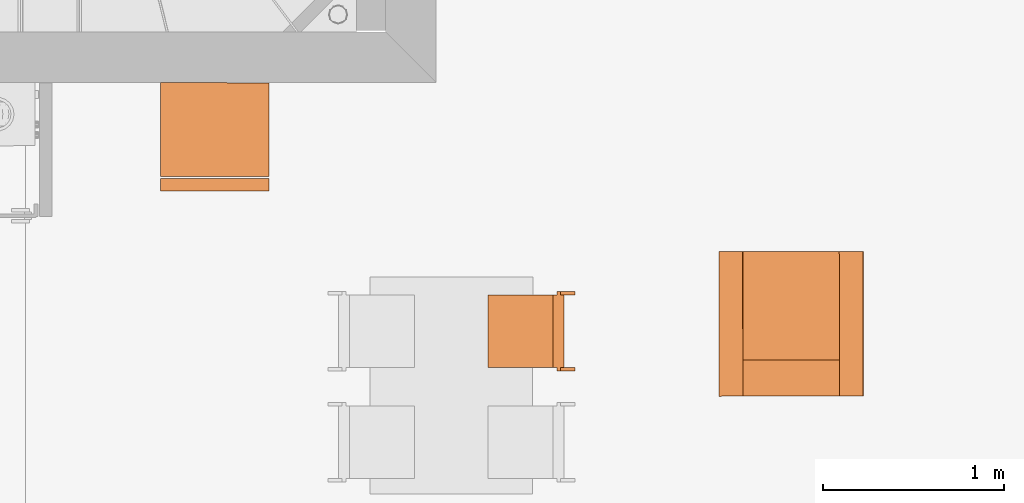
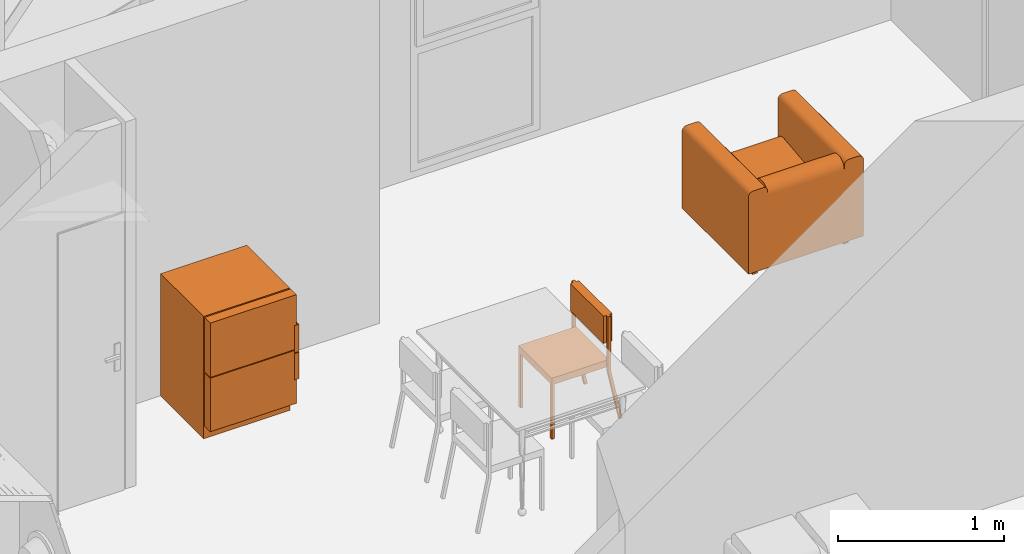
# One storey, part 147 of 164: 3 proxies.
"""IFC2X3 building model written with IfcOpenShell, lengths in millimetres."""

from ifc_helpers import new_model, entity, si_unit, converted_unit, derived_unit, money_unit, direction, frame, origin_with_axes, place, context, subcontext, project, spatial, open_shell, faceted_brep, surface_model, source, transform, mapped, type_object, element, save


model = new_model("IFC2X3")

# Units and contexts
model_context = context("Model", 3, precision=0.01, world=origin_with_axes(), true_north=direction((0.0, 1.0)))
body_context = subcontext(model_context, "Body", "Model", "MODEL_VIEW")
ifc_project = project(units=[si_unit("LENGTHUNIT", "METRE", prefix="MILLI"), si_unit("AREAUNIT", "SQUARE_METRE"), si_unit("VOLUMEUNIT", "CUBIC_METRE"), converted_unit("PLANEANGLEUNIT", "DEGREE", entity("IfcPlaneAngleMeasure", 0.0174532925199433), si_unit("PLANEANGLEUNIT", "RADIAN"), dimensions=[0, 0, 0, 0, 0, 0, 0]), money_unit("USD"), converted_unit("TIMEUNIT", "Year", entity("IfcTimeMeasure", 31557600.0), si_unit("TIMEUNIT", "SECOND"), dimensions=[0, 0, 1, 0, 0, 0, 0]), si_unit("MASSUNIT", "GRAM", prefix="KILO"), si_unit("THERMODYNAMICTEMPERATUREUNIT", "DEGREE_CELSIUS"), si_unit("LUMINOUSINTENSITYUNIT", "LUMEN"), si_unit("ENERGYUNIT", "JOULE", prefix="MEGA"), derived_unit("THERMALCONDUCTANCEUNIT", [(si_unit("POWERUNIT", "WATT"), 1), (si_unit("LENGTHUNIT", "METRE"), -1), (si_unit("THERMODYNAMICTEMPERATUREUNIT", "KELVIN"), -1)]), derived_unit("SPECIFICHEATCAPACITYUNIT", [(si_unit("ENERGYUNIT", "JOULE"), 1), (si_unit("MASSUNIT", "GRAM", prefix="KILO"), -1), (si_unit("THERMODYNAMICTEMPERATUREUNIT", "KELVIN"), -1)]), derived_unit("MASSDENSITYUNIT", [(si_unit("MASSUNIT", "GRAM", prefix="KILO"), 1), (si_unit("VOLUMEUNIT", "CUBIC_METRE"), -1)])], contexts=[model_context])

# Site, building, storey
site_placement = place(None, origin_with_axes())
site = spatial("IfcSite", under=ifc_project, at=site_placement, Name="Site", CompositionType="ELEMENT")
building_placement = place(site_placement, origin_with_axes())
building = spatial("IfcBuilding", under=site, at=building_placement, Name="Bâtiment", CompositionType="ELEMENT")
storey_placement = place(building_placement, frame((0.0, 0.0, 5750.0), z_axis=(0.0, 0.0, 1.0), x_axis=(1.0, 0.0, 0.0)))
storey = spatial("IfcBuildingStorey", under=building, at=storey_placement, Name="Etage1", CompositionType="ELEMENT", Elevation=5750.0)

# Proxies
building_element_proxy_type = type_object("IfcBuildingElementProxyType", PredefinedType="NOTDEFINED")
shared_shape_1 = source(origin_with_axes(), body_context, "Body", "Brep", [
    faceted_brep([(39.99999978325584, 0.0, 0.0), (19.99999989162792, 0.0, 0.0), (19.99999989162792, 19.99999936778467, 0.0), (39.99999978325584, 19.99999936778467, 0.0), (39.99999978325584, 0.0, 400.0), (19.99999989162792, 0.0, 400.0), (19.99999989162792, 19.99999936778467, 400.0), (39.99999978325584, 19.99999936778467, 400.0)], [[[0, 1, 2, 3]], [[1, 0, 4, 5]], [[2, 1, 5, 6]], [[3, 2, 6, 7]], [[0, 3, 7, 4]], [[5, 4, 7, 6]]]),
    faceted_brep([(419.9999977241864, 0.0, 0.0), (399.9999978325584, 0.0, 0.0), (399.9999978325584, 19.99999936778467, 0.0), (419.9999977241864, 19.99999936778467, 0.0), (419.9999977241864, 0.0, 400.0), (399.9999978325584, 0.0, 400.0), (399.9999978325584, 19.99999936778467, 400.0), (419.9999977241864, 19.99999936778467, 400.0)], [[[0, 1, 2, 3]], [[1, 0, 4, 5]], [[2, 1, 5, 6]], [[3, 2, 6, 7]], [[0, 3, 7, 4]], [[5, 4, 7, 6]]]),
    faceted_brep([(399.9999978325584, 0.0, 400.0000000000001), (39.99999978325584, 0.0, 400.0000000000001), (39.99999978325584, 19.99999936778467, 400.0000000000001), (399.9999978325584, 19.99999936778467, 400.0000000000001), (399.9999978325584, 0.0, 420.0000000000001), (39.99999978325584, 0.0, 420.0000000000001), (39.99999978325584, 19.99999936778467, 420.0000000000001), (399.9999978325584, 19.99999936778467, 420.0000000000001)], [[[0, 1, 2, 3]], [[1, 0, 4, 5]], [[2, 1, 5, 6]], [[3, 2, 6, 7]], [[0, 3, 7, 4]], [[5, 4, 7, 6]]]),
    faceted_brep([(39.99999978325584, 19.99999936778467, 400.0000000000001), (19.99999989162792, 19.99999936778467, 400.0000000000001), (19.99999989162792, 379.9999879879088, 400.0000000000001), (39.99999978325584, 379.9999879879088, 400.0000000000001), (39.99999978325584, 19.99999936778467, 420.0000000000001), (19.99999989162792, 19.99999936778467, 420.0000000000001), (19.99999989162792, 379.9999879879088, 420.0000000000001), (39.99999978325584, 379.9999879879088, 420.0000000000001)], [[[0, 1, 2, 3]], [[1, 0, 4, 5]], [[2, 1, 5, 6]], [[3, 2, 6, 7]], [[0, 3, 7, 4]], [[5, 4, 7, 6]]]),
    faceted_brep([(419.9999977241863, 379.9999879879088, 400.0000000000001), (19.99999989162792, 379.9999879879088, 400.0000000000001), (19.99999989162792, 399.9999873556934, 400.0000000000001), (419.9999977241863, 399.9999873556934, 400.0000000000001), (419.9999977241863, 379.9999879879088, 420.0000000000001), (19.99999989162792, 379.9999879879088, 420.0000000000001), (19.99999989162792, 399.9999873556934, 420.0000000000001), (419.9999977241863, 399.9999873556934, 420.0000000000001)], [[[0, 1, 2, 3]], [[1, 0, 4, 5]], [[2, 1, 5, 6]], [[3, 2, 6, 7]], [[0, 3, 7, 4]], [[5, 4, 7, 6]]]),
    faceted_brep([(419.9999977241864, 19.99999936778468, 400.0000000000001), (399.9999978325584, 19.99999936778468, 400.0000000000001), (399.9999978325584, 379.9999879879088, 400.0000000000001), (419.9999977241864, 379.9999879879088, 400.0000000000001), (419.9999977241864, 19.99999936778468, 420.0000000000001), (399.9999978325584, 19.99999936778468, 420.0000000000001), (399.9999978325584, 379.9999879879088, 420.0000000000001), (419.9999977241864, 379.9999879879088, 420.0000000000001)], [[[0, 1, 2, 3]], [[1, 0, 4, 5]], [[2, 1, 5, 6]], [[3, 2, 6, 7]], [[0, 3, 7, 4]], [[5, 4, 7, 6]]]),
    faceted_brep([(419.9999977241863, 0.0, 400.0), (19.99999989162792, 0.0, 400.0), (19.99999989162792, 399.9999873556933, 400.0), (419.9999977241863, 399.9999873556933, 400.0), (419.9999977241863, 0.0, 450.0), (19.99999989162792, 0.0, 450.0), (19.99999989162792, 399.9999873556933, 450.0), (419.9999977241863, 399.9999873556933, 450.0)], [[[0, 1, 2, 3]], [[1, 0, 4, 5]], [[2, 1, 5, 6]], [[3, 2, 6, 7]], [[0, 3, 7, 4]], [[5, 4, 7, 6]]]),
    faceted_brep([(19.99999989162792, 379.9999879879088, 380.0), (0.0, 379.9999879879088, 380.0), (0.0, 399.9999873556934, 380.0), (19.99999989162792, 399.9999873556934, 380.0), (19.99999989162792, 379.9999879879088, 780.0), (0.0, 379.9999879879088, 780.0), (0.0, 399.9999873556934, 780.0), (19.99999989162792, 399.9999873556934, 780.0)], [[[0, 1, 2, 3]], [[1, 0, 4, 5]], [[2, 1, 5, 6]], [[3, 2, 6, 7]], [[0, 3, 7, 4]], [[5, 4, 7, 6]]]),
    faceted_brep([(439.9999976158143, 379.9999879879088, 380.0), (419.9999977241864, 379.9999879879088, 380.0), (419.9999977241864, 399.9999873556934, 380.0), (439.9999976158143, 399.9999873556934, 380.0), (439.9999976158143, 379.9999879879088, 780.0), (419.9999977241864, 379.9999879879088, 780.0), (419.9999977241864, 399.9999873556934, 780.0), (439.9999976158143, 399.9999873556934, 780.0)], [[[0, 1, 2, 3]], [[1, 0, 4, 5]], [[2, 1, 5, 6]], [[3, 2, 6, 7]], [[0, 3, 7, 4]], [[5, 4, 7, 6]]]),
    faceted_brep([(419.9999977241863, 359.999988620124, 580.0000000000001), (19.99999989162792, 359.999988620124, 580.0000000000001), (19.99999989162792, 419.9999867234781, 580.0000000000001), (419.9999977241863, 419.9999867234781, 580.0000000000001), (419.9999977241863, 359.999988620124, 780.0), (19.99999989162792, 359.999988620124, 780.0), (19.99999989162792, 419.9999867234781, 780.0), (419.9999977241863, 419.9999867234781, 780.0)], [[[0, 1, 2, 3]], [[1, 0, 4, 5]], [[2, 1, 5, 6]], [[3, 2, 6, 7]], [[0, 3, 7, 4]], [[5, 4, 7, 6]]]),
    faceted_brep([(19.99999989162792, 459.9999854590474, 0.0), (0.0, 459.9999854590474, 0.0), (0.0, 479.5709559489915, 4.120326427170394), (19.99999989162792, 479.5709559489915, 4.120326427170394), (19.99999989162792, 379.997669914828, 379.999760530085), (0.0, 379.997669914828, 379.999760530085), (0.0, 399.5686404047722, 384.1200869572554), (19.99999989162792, 399.5686404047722, 384.1200869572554)], [[[0, 1, 2, 3]], [[1, 0, 4, 5]], [[2, 1, 5, 6]], [[3, 2, 6, 7]], [[0, 3, 7, 4]], [[5, 4, 7, 6]]]),
    faceted_brep([(439.9999976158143, 459.9999854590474, 0.0), (419.9999977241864, 459.9999854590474, 0.0), (419.9999977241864, 479.5709559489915, 4.120326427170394), (439.9999976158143, 479.5709559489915, 4.120326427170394), (439.9999976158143, 379.997669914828, 379.999760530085), (419.9999977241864, 379.997669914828, 379.999760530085), (419.9999977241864, 399.5686404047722, 384.1200869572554), (439.9999976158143, 399.5686404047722, 384.1200869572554)], [[[0, 1, 2, 3]], [[1, 0, 4, 5]], [[2, 1, 5, 6]], [[3, 2, 6, 7]], [[0, 3, 7, 4]], [[5, 4, 7, 6]]]),
])
proxy_1_placement = place(storey_placement, frame((2230042.608251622, -638670.5259858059, 0.0), z_axis=(0.0, 0.0, 1.0), x_axis=(-8.510155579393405e-05, -0.9999999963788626, 0.0)))
element("IfcBuildingElementProxy", 1, at=proxy_1_placement, inside=storey, type_object=building_element_proxy_type, Name="Obj.-027", context=body_context, shape_type="MappedRepresentation", body=[
    mapped(shared_shape_1, transform((0.0, 0.0, 0.0))),
])
shared_shape_2 = source(origin_with_axes(), body_context, "Body", "Brep", [
    faceted_brep([(333.3000000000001, 66.7, 0.0), (300.0000000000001, 66.7, 0.0), (300.0000000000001, 100.0, 0.0), (333.3000000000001, 100.0, 0.0), (333.3000000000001, 66.7, 66.69999999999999), (300.0000000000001, 66.7, 66.69999999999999), (300.0000000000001, 100.0, 66.69999999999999), (333.3000000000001, 100.0, 66.69999999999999)], [[[0, 1, 2, 3]], [[1, 0, 4, 5]], [[2, 1, 5, 6]], [[3, 2, 6, 7]], [[0, 3, 7, 4]], [[5, 4, 7, 6]]]),
    faceted_brep([(333.3000000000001, 700.0000000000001, 0.0), (300.0000000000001, 700.0000000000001, 0.0), (300.0000000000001, 733.3000000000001, 0.0), (333.3000000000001, 733.3000000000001, 0.0), (333.3000000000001, 700.0000000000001, 66.69999999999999), (300.0000000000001, 700.0000000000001, 66.69999999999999), (300.0000000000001, 733.3000000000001, 66.69999999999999), (333.3000000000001, 733.3000000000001, 66.69999999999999)], [[[0, 1, 2, 3]], [[1, 0, 4, 5]], [[2, 1, 5, 6]], [[3, 2, 6, 7]], [[0, 3, 7, 4]], [[5, 4, 7, 6]]]),
    faceted_brep([(-300.0000000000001, 66.7, 0.0), (-333.3000000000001, 66.7, 0.0), (-333.3000000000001, 100.0, 0.0), (-300.0000000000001, 100.0, 0.0), (-300.0000000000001, 66.7, 66.69999999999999), (-333.3000000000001, 66.7, 66.69999999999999), (-333.3000000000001, 100.0, 66.69999999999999), (-300.0000000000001, 100.0, 66.69999999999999)], [[[0, 1, 2, 3]], [[1, 0, 4, 5]], [[2, 1, 5, 6]], [[3, 2, 6, 7]], [[0, 3, 7, 4]], [[5, 4, 7, 6]]]),
    faceted_brep([(-300.0000000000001, 700.0000000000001, 0.0), (-333.3000000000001, 700.0000000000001, 0.0), (-333.3000000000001, 733.3000000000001, 0.0), (-300.0000000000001, 733.3000000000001, 0.0), (-300.0000000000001, 700.0000000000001, 66.69999999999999), (-333.3000000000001, 700.0000000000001, 66.69999999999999), (-333.3000000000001, 733.3000000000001, 66.69999999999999), (-300.0000000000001, 733.3000000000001, 66.69999999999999)], [[[0, 1, 2, 3]], [[1, 0, 4, 5]], [[2, 1, 5, 6]], [[3, 2, 6, 7]], [[0, 3, 7, 4]], [[5, 4, 7, 6]]]),
    faceted_brep([(266.7, 800.0, 66.69999999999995), (400.033, 800.0, 66.69999999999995), (400.033, 0.0, 66.69999999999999), (266.7, 0.0, 66.69999999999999), (266.7, 800.0, 67.19999999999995), (266.7, 800.0, 633.37), (266.7, 800.0, 636.2859999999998), (267.713, 800.0, 642.029), (269.707, 800.0, 647.5099999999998), (272.623, 800.0, 652.5599999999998), (276.372, 800.0, 657.0279999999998), (280.84, 800.0, 660.7769999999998), (285.89, 800.0, 663.6929999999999), (291.371, 800.0, 665.6869999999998), (297.114, 800.0, 666.6999999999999), (300.03, 800.0, 666.6999999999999), (366.703, 800.0, 666.6999999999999), (369.619, 800.0, 666.6999999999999), (375.363, 800.0, 665.6869999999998), (380.843, 800.0, 663.6929999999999), (385.894, 800.0, 660.7769999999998), (390.361, 800.0, 657.0279999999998), (394.11, 800.0, 652.5599999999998), (397.026, 800.0, 647.5099999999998), (399.021, 800.0, 642.029), (400.033, 800.0, 636.2859999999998), (400.033, 800.0, 633.37), (400.033, 0.0, 633.37), (400.033, 0.0, 636.2859999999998), (399.021, 0.0, 642.029), (397.026, 0.0, 647.5099999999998), (394.11, 0.0, 652.5599999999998), (390.361, 0.0, 657.0279999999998), (385.894, 0.0, 660.7769999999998), (380.843, 0.0, 663.6929999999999), (375.363, 0.0, 665.6869999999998), (369.619, 0.0, 666.6999999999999), (366.703, 0.0, 666.6999999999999), (300.03, 0.0, 666.6999999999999), (297.114, 0.0, 666.6999999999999), (291.371, 0.0, 665.6869999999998), (285.89, 0.0, 663.6929999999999), (280.84, 0.0, 660.7769999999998), (276.372, 0.0, 657.0279999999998), (272.623, 0.0, 652.5599999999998), (269.707, 0.0, 647.5099999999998), (267.713, 0.0, 642.029), (266.7, 0.0, 636.2859999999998), (266.7, 0.0, 633.37), (266.7, 0.0, 67.19999999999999)], [[[0, 1, 2, 3]], [[0, 4, 5, 6, 7, 8, 9, 10, 11, 12, 13, 14, 15, 16, 17, 18, 19, 20, 21, 22, 23, 24, 25, 26, 1]], [[1, 26, 27, 2]], [[3, 2, 27, 28, 29, 30, 31, 32, 33, 34, 35, 36, 37, 38, 39, 40, 41, 42, 43, 44, 45, 46, 47, 48, 49]], [[4, 0, 3, 49]], [[5, 4, 49, 48]], [[6, 5, 48, 47]], [[7, 6, 47, 46]], [[8, 7, 46, 45]], [[9, 8, 45, 44]], [[10, 9, 44, 43]], [[11, 10, 43, 42]], [[12, 11, 42, 41]], [[13, 12, 41, 40]], [[14, 13, 40, 39]], [[15, 14, 39, 38]], [[16, 15, 38, 37]], [[17, 16, 37, 36]], [[18, 17, 36, 35]], [[19, 18, 35, 34]], [[20, 19, 34, 33]], [[21, 20, 33, 32]], [[22, 21, 32, 31]], [[23, 22, 31, 30]], [[24, 23, 30, 29]], [[25, 24, 29, 28]], [[26, 25, 28, 27]]]),
    faceted_brep([(-400.0, 800.0, 66.69999999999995), (-266.667, 800.0, 66.69999999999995), (-266.667, 0.0, 66.69999999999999), (-400.0, 0.0, 66.69999999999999), (-400.0, 800.0, 67.19999999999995), (-400.0, 800.0, 633.37), (-400.0, 800.0, 636.2859999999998), (-398.987, 800.0, 642.029), (-396.9930000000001, 800.0, 647.5099999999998), (-394.077, 800.0, 652.5599999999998), (-390.328, 800.0, 657.0279999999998), (-385.86, 800.0, 660.7769999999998), (-380.8100000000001, 800.0, 663.6929999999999), (-375.329, 800.0, 665.6869999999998), (-369.586, 800.0, 666.6999999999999), (-366.67, 800.0, 666.6999999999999), (-299.997, 800.0, 666.6999999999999), (-297.081, 800.0, 666.6999999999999), (-291.337, 800.0, 665.6869999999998), (-285.857, 800.0, 663.6929999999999), (-280.806, 800.0, 660.7769999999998), (-276.339, 800.0, 657.0279999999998), (-272.59, 800.0, 652.5599999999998), (-269.674, 800.0, 647.5099999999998), (-267.679, 800.0, 642.029), (-266.667, 800.0, 636.2859999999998), (-266.667, 800.0, 633.37), (-266.667, 0.0, 633.37), (-266.667, 0.0, 636.2859999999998), (-267.679, 0.0, 642.029), (-269.674, 0.0, 647.5099999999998), (-272.59, 0.0, 652.5599999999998), (-276.339, 0.0, 657.0279999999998), (-280.806, 0.0, 660.7769999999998), (-285.857, 0.0, 663.6929999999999), (-291.337, 0.0, 665.6869999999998), (-297.081, 0.0, 666.6999999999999), (-299.997, 0.0, 666.6999999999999), (-366.67, 0.0, 666.6999999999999), (-369.586, 0.0, 666.6999999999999), (-375.329, 0.0, 665.6869999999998), (-380.8100000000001, 0.0, 663.6929999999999), (-385.86, 0.0, 660.7769999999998), (-390.328, 0.0, 657.0279999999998), (-394.077, 0.0, 652.5599999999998), (-396.9930000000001, 0.0, 647.5099999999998), (-398.987, 0.0, 642.029), (-400.0, 0.0, 636.2859999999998), (-400.0, 0.0, 633.37), (-400.0, 0.0, 67.19999999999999)], [[[0, 1, 2, 3]], [[0, 4, 5, 6, 7, 8, 9, 10, 11, 12, 13, 14, 15, 16, 17, 18, 19, 20, 21, 22, 23, 24, 25, 26, 1]], [[1, 26, 27, 2]], [[3, 2, 27, 28, 29, 30, 31, 32, 33, 34, 35, 36, 37, 38, 39, 40, 41, 42, 43, 44, 45, 46, 47, 48, 49]], [[4, 0, 3, 49]], [[5, 4, 49, 48]], [[6, 5, 48, 47]], [[7, 6, 47, 46]], [[8, 7, 46, 45]], [[9, 8, 45, 44]], [[10, 9, 44, 43]], [[11, 10, 43, 42]], [[12, 11, 42, 41]], [[13, 12, 41, 40]], [[14, 13, 40, 39]], [[15, 14, 39, 38]], [[16, 15, 38, 37]], [[17, 16, 37, 36]], [[18, 17, 36, 35]], [[19, 18, 35, 34]], [[20, 19, 34, 33]], [[21, 20, 33, 32]], [[22, 21, 32, 31]], [[23, 22, 31, 30]], [[24, 23, 30, 29]], [[25, 24, 29, 28]], [[26, 25, 28, 27]]]),
    faceted_brep([(-266.6667, 0.0, 66.69999999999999), (-266.6667, 800.0, 66.69999999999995), (266.6333, 800.0, 66.69999999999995), (266.6333, 0.0, 66.69999999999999), (-266.6667, 0.0, 67.2), (-266.6667, 0.0, 325.5449999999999), (-266.6667, -0.2359999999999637, 327.1109999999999), (-266.6667, 1.052000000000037, 338.7049999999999), (-266.6667, 4.334000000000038, 349.8989999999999), (-266.6667, 9.510000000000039, 360.3539999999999), (-266.6667, 16.42300000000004, 369.7509999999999), (-266.6667, 24.86200000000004, 377.8049999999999), (-266.6667, 34.57200000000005, 384.271), (-266.6667, 45.25800000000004, 388.9519999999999), (-266.6667, 56.59300000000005, 391.707), (-266.6667, 68.23500000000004, 392.4519999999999), (-266.6667, 74.03200000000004, 391.808), (-266.6667, 600.0000000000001, 333.3669999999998), (-266.6667, 600.0980000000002, 333.8569999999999), (-266.6667, 655.9480000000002, 613.1049999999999), (-266.6667, 656.6790000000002, 617.351), (-266.6667, 660.6690000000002, 628.314), (-266.6667, 666.5020000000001, 638.4159999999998), (-266.6667, 674.0000000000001, 647.3529999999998), (-266.6667, 682.937, 654.8509999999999), (-266.6667, 693.0390000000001, 660.6839999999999), (-266.6667, 704.0020000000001, 664.6739999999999), (-266.6667, 715.4900000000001, 666.6999999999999), (-266.6667, 721.3230000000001, 666.6999999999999), (-266.6667, 733.33, 666.6999999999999), (-266.6667, 739.163, 666.6999999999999), (-266.6667, 750.6510000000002, 664.6739999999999), (-266.6667, 761.614, 660.6839999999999), (-266.6667, 771.716, 654.8509999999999), (-266.6667, 780.653, 647.3529999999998), (-266.6667, 788.1510000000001, 638.4159999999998), (-266.6667, 793.984, 628.314), (-266.6667, 797.974, 617.351), (-266.6667, 800.0, 605.8629999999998), (-266.6667, 800.0, 600.0299999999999), (266.6333, 800.0, 600.0299999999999), (266.6333, 800.0, 605.8629999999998), (266.6333, 797.974, 617.351), (266.6333, 793.984, 628.314), (266.6333, 788.1510000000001, 638.4159999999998), (266.6333, 780.653, 647.3529999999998), (266.6333, 771.716, 654.8509999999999), (266.6333, 761.614, 660.6839999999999), (266.6333, 750.6510000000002, 664.6739999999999), (266.6333, 739.163, 666.6999999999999), (266.6333, 733.33, 666.6999999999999), (266.6333, 721.3230000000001, 666.6999999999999), (266.6333, 715.4900000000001, 666.6999999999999), (266.6333, 704.0020000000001, 664.6739999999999), (266.6333, 693.0390000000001, 660.6839999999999), (266.6333, 682.937, 654.8509999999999), (266.6333, 674.0000000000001, 647.3529999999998), (266.6333, 666.5020000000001, 638.4159999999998), (266.6333, 660.6690000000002, 628.314), (266.6333, 656.6790000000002, 617.351), (266.6333, 655.9480000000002, 613.1049999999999), (266.6333, 600.0980000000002, 333.8569999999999), (266.6333, 600.0000000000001, 333.3669999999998), (266.6333, 74.03200000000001, 391.808), (266.6333, 68.23500000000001, 392.4519999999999), (266.6333, 56.59300000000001, 391.707), (266.6333, 45.25800000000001, 388.9519999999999), (266.6333, 34.57200000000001, 384.271), (266.6333, 24.86200000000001, 377.8049999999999), (266.6333, 16.42300000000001, 369.7509999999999), (266.6333, 9.510000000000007, 360.3539999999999), (266.6333, 4.334000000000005, 349.8989999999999), (266.6333, 1.052000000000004, 338.7049999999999), (266.6333, -0.2359999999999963, 327.1109999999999), (266.6333, 0.0, 325.5449999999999), (266.6333, 0.0, 67.2)], [[[0, 1, 2, 3]], [[0, 4, 5, 6, 7, 8, 9, 10, 11, 12, 13, 14, 15, 16, 17, 18, 19, 20, 21, 22, 23, 24, 25, 26, 27, 28, 29, 30, 31, 32, 33, 34, 35, 36, 37, 38, 39, 1]], [[1, 39, 40, 2]], [[3, 2, 40, 41, 42, 43, 44, 45, 46, 47, 48, 49, 50, 51, 52, 53, 54, 55, 56, 57, 58, 59, 60, 61, 62, 63, 64, 65, 66, 67, 68, 69, 70, 71, 72, 73, 74, 75]], [[4, 0, 3, 75]], [[5, 4, 75, 74]], [[6, 5, 74, 73]], [[7, 6, 73, 72]], [[8, 7, 72, 71]], [[9, 8, 71, 70]], [[10, 9, 70, 69]], [[11, 10, 69, 68]], [[12, 11, 68, 67]], [[13, 12, 67, 66]], [[14, 13, 66, 65]], [[15, 14, 65, 64]], [[16, 15, 64, 63]], [[17, 16, 63, 62]], [[18, 17, 62, 61]], [[19, 18, 61, 60]], [[20, 19, 60, 59]], [[21, 20, 59, 58]], [[22, 21, 58, 57]], [[23, 22, 57, 56]], [[24, 23, 56, 55]], [[25, 24, 55, 54]], [[26, 25, 54, 53]], [[27, 26, 53, 52]], [[28, 27, 52, 51]], [[29, 28, 51, 50]], [[30, 29, 50, 49]], [[31, 30, 49, 48]], [[32, 31, 48, 47]], [[33, 32, 47, 46]], [[34, 33, 46, 45]], [[35, 34, 45, 44]], [[36, 35, 44, 43]], [[37, 36, 43, 42]], [[38, 37, 42, 41]], [[39, 38, 41, 40]]]),
])
proxy_2_placement = place(storey_placement, frame((2231718.986323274, -638450.1764254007, 800.0000000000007), z_axis=(0.0, 0.0, 1.0), x_axis=(-0.9999998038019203, -0.0006264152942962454, 0.0)))
element("IfcBuildingElementProxy", 2, at=proxy_2_placement, inside=storey, type_object=building_element_proxy_type, Name="Obj.-034", context=body_context, shape_type="MappedRepresentation", body=[
    mapped(shared_shape_2, transform((0.0, 0.0, 0.0))),
])
shared_shape_3 = source(origin_with_axes(), body_context, "Body", "SurfaceModel", [
    faceted_brep([(0.0, 80.0, 100.0), (600.0, 80.0, 100.0), (600.0, 80.0, 900.0), (0.0, 80.0, 900.0), (0.0, 600.0, 100.0), (600.0, 600.0, 100.0), (600.0, 600.0, 900.0), (0.0, 600.0, 900.0)], [[[0, 1, 2, 3]], [[0, 4, 5, 1]], [[1, 5, 6, 2]], [[3, 2, 6, 7]], [[4, 0, 3, 7]], [[5, 4, 7, 6]]]),
    faceted_brep([(0.0, 80.0, 0.0), (600.0, 80.0, 0.0), (600.0, 80.0, 100.0), (0.0, 80.0, 100.0), (0.0, 600.0, 0.0), (600.0, 600.0, 0.0), (600.0, 600.0, 100.0), (0.0, 600.0, 100.0)], [[[0, 1, 2, 3]], [[0, 4, 5, 1]], [[1, 5, 6, 2]], [[3, 2, 6, 7]], [[4, 0, 3, 7]], [[5, 4, 7, 6]]]),
    faceted_brep([(0.0, 70.0, 100.0), (600.0, 70.0, 100.0), (600.0, 0.0, 100.0), (0.0, 0.0, 100.0), (0.0, 70.00000000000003, 494.0), (600.0, 70.00000000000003, 494.0), (600.0, 0.0, 494.0), (0.0, 0.0, 494.0)], [[[0, 1, 2, 3]], [[0, 4, 5, 1]], [[1, 5, 6, 2]], [[3, 2, 6, 7]], [[4, 0, 3, 7]], [[5, 4, 7, 6]]]),
    faceted_brep([(0.0, 70.0, 500.0), (600.0, 70.0, 500.0), (600.0, 0.0, 500.0), (0.0, 0.0, 500.0), (0.0, 70.00000000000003, 900.0), (600.0, 70.00000000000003, 900.0), (600.0, 0.0, 900.0), (0.0, 0.0, 900.0)], [[[0, 1, 2, 3]], [[0, 4, 5, 1]], [[1, 5, 6, 2]], [[3, 2, 6, 7]], [[4, 0, 3, 7]], [[5, 4, 7, 6]]]),
    surface_model("IfcShellBasedSurfaceModel", [(600.0, -30.0, 300.0000000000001), (600.0, -30.0, 494.0000000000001), (600.0, 0.0, 494.0000000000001), (600.0, 0.0, 300.0000000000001)], [open_shell([[[0, 1, 2, 3]]])]),
    surface_model("IfcShellBasedSurfaceModel", [(600.0, -30.0, 300.0000000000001), (600.0, -30.0, 494.0000000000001), (570.0, -30.0, 494.0000000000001), (570.0, -30.0, 300.0000000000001)], [open_shell([[[0, 1, 2, 3]]])]),
    surface_model("IfcShellBasedSurfaceModel", [(600.0, -30.0, 500.0), (600.0, -30.0, 700.0), (600.0, 0.0, 700.0), (600.0, 0.0, 500.0)], [open_shell([[[0, 1, 2, 3]]])]),
    surface_model("IfcShellBasedSurfaceModel", [(600.0, -30.0, 500.0), (600.0, -30.0, 700.0), (570.0, -30.0, 700.0), (570.0, -30.0, 500.0)], [open_shell([[[0, 1, 2, 3]]])]),
])
proxy_3_placement = place(storey_placement, frame((2228229.231126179, -638114.9923134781, 0.0), z_axis=(0.0, 0.0, 1.0), x_axis=(0.9999998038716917, -0.0006263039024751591, 0.0)))
element("IfcBuildingElementProxy", 3, at=proxy_3_placement, inside=storey, type_object=building_element_proxy_type, Name="Obj.-019", context=body_context, shape_type="MappedRepresentation", body=[
    mapped(shared_shape_3, transform((0.0, 0.0, 0.0))),
])

save(model, "model.ifc")
